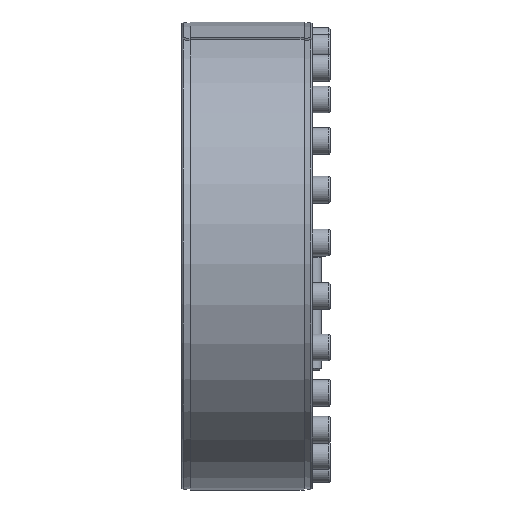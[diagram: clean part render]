
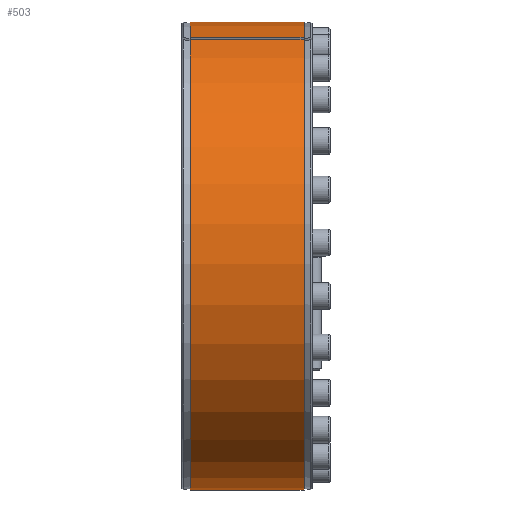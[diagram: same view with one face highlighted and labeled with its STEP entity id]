
A CAD part, left-side view. The second image highlights one B-rep face of the part: STEP entity #503.
In plain terms, the highlighted cylindrical face has radius 287.5 mm (diameter 575 mm), a partial arc.
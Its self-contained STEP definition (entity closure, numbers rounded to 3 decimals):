
#503 = ADVANCED_FACE( '', ( #951 ), #952, .T. );
#951 = FACE_OUTER_BOUND( '', #1438, .T. );
#952 = CYLINDRICAL_SURFACE( '', #1439, 287.5 );
#1438 = EDGE_LOOP( '', ( #2090, #2091, #2092, #2093 ) );
#1439 = AXIS2_PLACEMENT_3D( '', #2094, #2095, #2096 );
#2090 = ORIENTED_EDGE( '', *, *, #2725, .T. );
#2091 = ORIENTED_EDGE( '', *, *, #2679, .T. );
#2092 = ORIENTED_EDGE( '', *, *, #2758, .F. );
#2093 = ORIENTED_EDGE( '', *, *, #2880, .T. );
#2094 = CARTESIAN_POINT( '', ( 0., -60., 0. ) );
#2095 = DIRECTION( '', ( 0., 1., 0. ) );
#2096 = DIRECTION( '', ( 0., 0., -1. ) );
#2679 = EDGE_CURVE( '', #2984, #2982, #2985, .T. );
#2725 = EDGE_CURVE( '', #3070, #2984, #3071, .T. );
#2758 = EDGE_CURVE( '', #3132, #2982, #3133, .T. );
#2880 = EDGE_CURVE( '', #3132, #3070, #3363, .F. );
#2982 = VERTEX_POINT( '', #3439 );
#2984 = VERTEX_POINT( '', #3442 );
#2985 = LINE( '', #3443, #3444 );
#3070 = VERTEX_POINT( '', #3554 );
#3071 = CIRCLE( '', #3555, 287.5 );
#3132 = VERTEX_POINT( '', #3624 );
#3133 = CIRCLE( '', #3625, 287.5 );
#3363 = LINE( '', #3878, #3879 );
#3439 = CARTESIAN_POINT( '', ( -102.574, 10., 268.579 ) );
#3442 = CARTESIAN_POINT( '', ( -102.574, 150., 268.579 ) );
#3443 = CARTESIAN_POINT( '', ( -102.574, -60., 268.579 ) );
#3444 = VECTOR( '', #3894, 1000. );
#3554 = CARTESIAN_POINT( '', ( -109.082, 150., 266.002 ) );
#3555 = AXIS2_PLACEMENT_3D( '', #4001, #4002, #4003 );
#3624 = CARTESIAN_POINT( '', ( -109.082, 10., 266.002 ) );
#3625 = AXIS2_PLACEMENT_3D( '', #4090, #4091, #4092 );
#3878 = CARTESIAN_POINT( '', ( -109.082, -60., 266.002 ) );
#3879 = VECTOR( '', #4425, 1000. );
#3894 = DIRECTION( '', ( 0., -1., 0. ) );
#4001 = CARTESIAN_POINT( '', ( 0., 150., 0. ) );
#4002 = DIRECTION( '', ( 0., -1., 0. ) );
#4003 = DIRECTION( '', ( 0., 0., -1. ) );
#4090 = CARTESIAN_POINT( '', ( 0., 10., 0. ) );
#4091 = DIRECTION( '', ( 0., -1., 0. ) );
#4092 = DIRECTION( '', ( 0., 0., -1. ) );
#4425 = DIRECTION( '', ( 0., -1., 0. ) );
